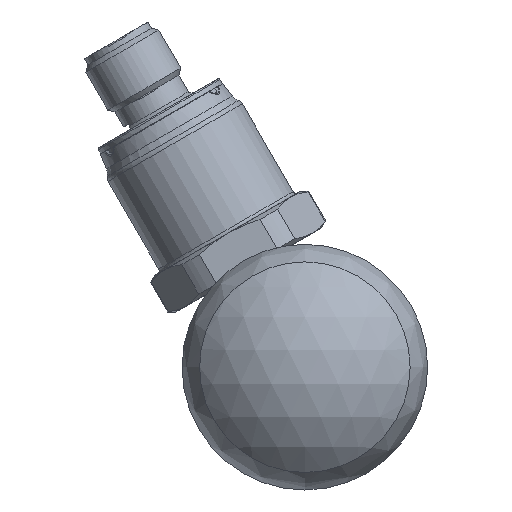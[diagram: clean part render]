
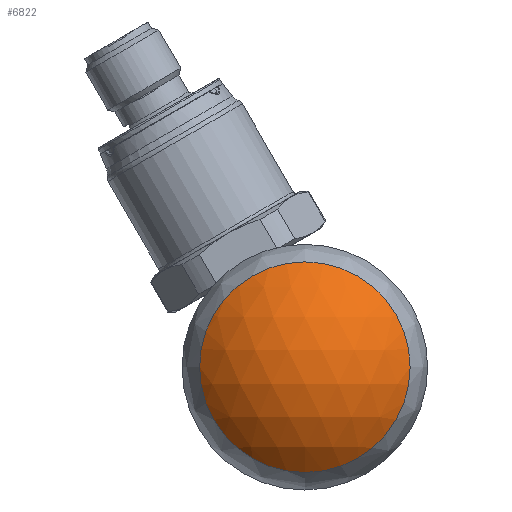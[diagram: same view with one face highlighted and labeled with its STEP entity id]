
A CAD part, front view. The second image highlights one B-rep face of the part: STEP entity #6822.
In plain terms, the highlighted spherical face has radius 20 mm.
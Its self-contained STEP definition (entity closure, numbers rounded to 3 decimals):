
#14=SPHERICAL_SURFACE('',#7328,20.);
#837=CIRCLE('',#7329,15.);
#1207=FACE_OUTER_BOUND('',#1610,.T.);
#1610=EDGE_LOOP('',(#5817));
#2997=VERTEX_POINT('',#19497);
#3948=EDGE_CURVE('',#2997,#2997,#837,.T.);
#5817=ORIENTED_EDGE('',*,*,#3948,.F.);
#6822=ADVANCED_FACE('',(#1207),#14,.T.);
#7328=AXIS2_PLACEMENT_3D('',#19496,#8669,#8670);
#7329=AXIS2_PLACEMENT_3D('',#19498,#8671,#8672);
#8669=DIRECTION('center_axis',(0.,0.,1.));
#8670=DIRECTION('ref_axis',(1.,0.,0.));
#8671=DIRECTION('center_axis',(0.,1.,0.));
#8672=DIRECTION('ref_axis',(1.,0.,0.));
#19496=CARTESIAN_POINT('Origin',(0.,20.,0.));
#19497=CARTESIAN_POINT('',(0.,6.771,-15.));
#19498=CARTESIAN_POINT('Origin',(0.,6.771,0.));
